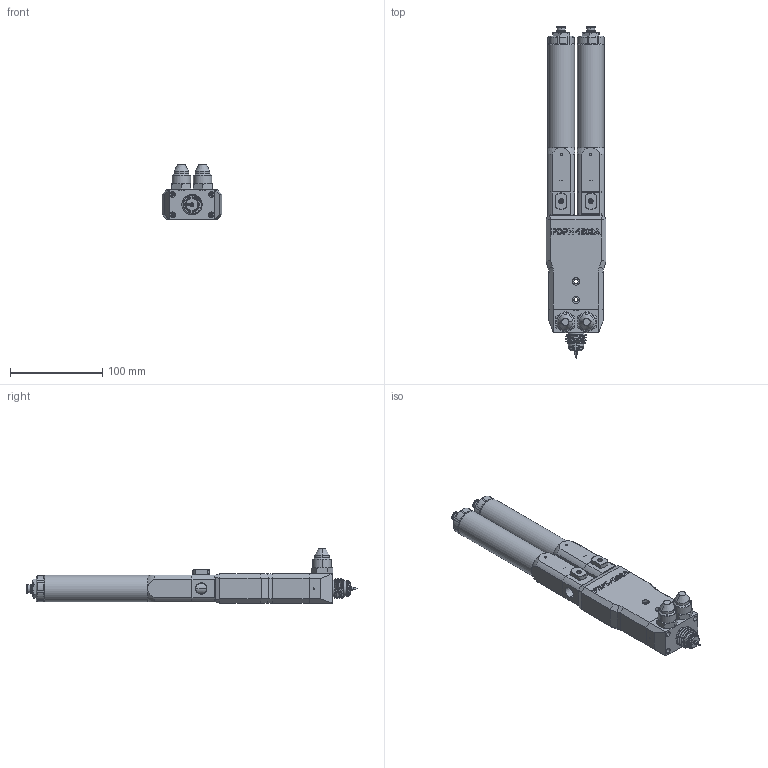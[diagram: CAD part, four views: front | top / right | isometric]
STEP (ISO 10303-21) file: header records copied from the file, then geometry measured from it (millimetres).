
FILE_DESCRIPTION (( 'STEP AP214' ), '1' );
FILE_NAME ('PDP-1500-150CB.STEP', '2024-10-11T12:28:00', ( '' ), ( '' ), 'SwSTEP 2.0', 'SolidWorks 2024', '' );
FILE_SCHEMA (( 'AUTOMOTIVE_DESIGN' ));
Length unit declared in the file: millimetre
Products named in the file (1): PDP-1500-150CB
Bounding box: 65 x 360 x 59.3 mm (x, y, z)
Volume: 522027.9 mm3; surface area: 122795 mm2
Topology: 13 solids, 13 shells, 1542 faces, 3872 edges, 2461 vertices
Faces by surface type: plane 760, cylinder 425, cone 314, bspline 23, torus 12, sphere 8
Full cylindrical faces by diameter (mm): 29 x2
Entity records: 66131 total; most frequent: CARTESIAN_POINT 29449, ORIENTED_EDGE 7688, DIRECTION 7435, EDGE_CURVE 3844, AXIS2_PLACEMENT_3D 2659, VERTEX_POINT 2461, VECTOR 2117, LINE 2117
